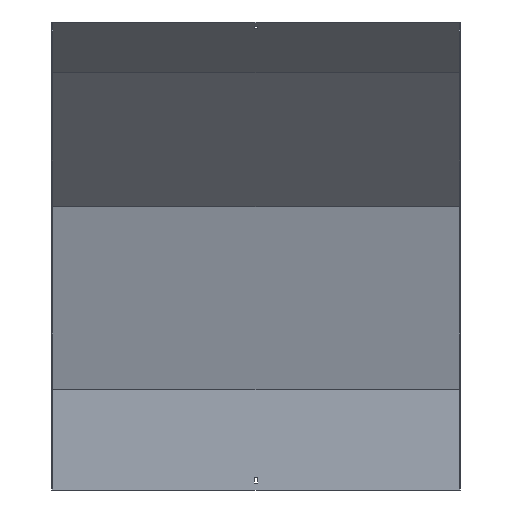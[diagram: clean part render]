
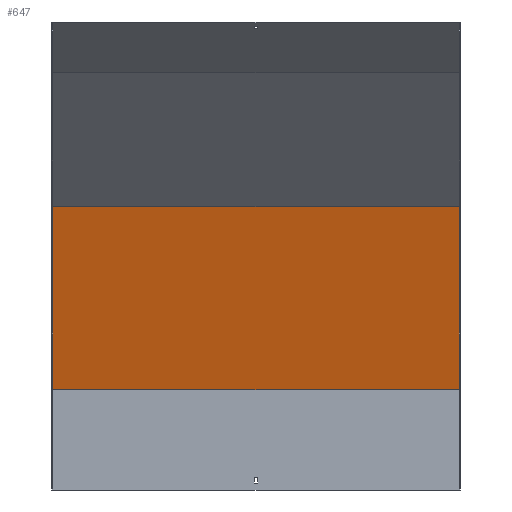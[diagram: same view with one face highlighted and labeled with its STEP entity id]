
A CAD part, front view. The second image highlights one B-rep face of the part: STEP entity #647.
In plain terms, the highlighted planar face has unit normal (0, -0.966, -0.259).
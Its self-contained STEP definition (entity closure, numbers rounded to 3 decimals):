
#37 = VECTOR ( 'NONE', #688, 1000. ) ;
#59 = VERTEX_POINT ( 'NONE', #521 ) ;
#63 = FACE_OUTER_BOUND ( 'NONE', #871, .T. ) ;
#106 = VECTOR ( 'NONE', #809, 1000. ) ;
#204 = LINE ( 'NONE', #500, #106 ) ;
#269 = AXIS2_PLACEMENT_3D ( 'NONE', #660, #592, #297 ) ;
#297 = DIRECTION ( 'NONE',  ( 0., 0.259, -0.966 ) ) ;
#310 = VERTEX_POINT ( 'NONE', #537 ) ;
#315 = VERTEX_POINT ( 'NONE', #383 ) ;
#331 = DIRECTION ( 'NONE',  ( 0., -0.259, 0.966 ) ) ;
#368 = PLANE ( 'NONE',  #269 ) ;
#383 = CARTESIAN_POINT ( 'NONE',  ( -350., 18.5, 172.436 ) ) ;
#408 = LINE ( 'NONE', #705, #882 ) ;
#445 = EDGE_CURVE ( 'NONE', #59, #310, #463, .T. ) ;
#463 = LINE ( 'NONE', #571, #37 ) ;
#500 = CARTESIAN_POINT ( 'NONE',  ( 351.5, 18.5, 172.436 ) ) ;
#521 = CARTESIAN_POINT ( 'NONE',  ( 350., -65.977, 487.707 ) ) ;
#537 = CARTESIAN_POINT ( 'NONE',  ( -350., -65.977, 487.707 ) ) ;
#571 = CARTESIAN_POINT ( 'NONE',  ( 351.5, -65.977, 487.707 ) ) ;
#581 = EDGE_CURVE ( 'NONE', #750, #315, #204, .T. ) ;
#592 = DIRECTION ( 'NONE',  ( 0., -0.966, -0.259 ) ) ;
#632 = ORIENTED_EDGE ( 'NONE', *, *, #445, .T. ) ;
#647 = ADVANCED_FACE ( 'NONE', ( #63 ), #368, .T. ) ;
#660 = CARTESIAN_POINT ( 'NONE',  ( 351.5, 17.87, 174.788 ) ) ;
#688 = DIRECTION ( 'NONE',  ( -1., 0., 0. ) ) ;
#695 = CARTESIAN_POINT ( 'NONE',  ( 350., 18.5, 172.436 ) ) ;
#700 = EDGE_CURVE ( 'NONE', #750, #59, #920, .T. ) ;
#705 = CARTESIAN_POINT ( 'NONE',  ( -350., 60.37, 16.176 ) ) ;
#738 = ORIENTED_EDGE ( 'NONE', *, *, #883, .F. ) ;
#743 = ORIENTED_EDGE ( 'NONE', *, *, #581, .F. ) ;
#750 = VERTEX_POINT ( 'NONE', #695 ) ;
#760 = DIRECTION ( 'NONE',  ( 0., -0.259, 0.966 ) ) ;
#777 = ORIENTED_EDGE ( 'NONE', *, *, #700, .T. ) ;
#809 = DIRECTION ( 'NONE',  ( -1., 0., 0. ) ) ;
#867 = VECTOR ( 'NONE', #760, 1000. ) ;
#871 = EDGE_LOOP ( 'NONE', ( #738, #743, #777, #632 ) ) ;
#882 = VECTOR ( 'NONE', #331, 1000. ) ;
#883 = EDGE_CURVE ( 'NONE', #315, #310, #408, .T. ) ;
#914 = CARTESIAN_POINT ( 'NONE',  ( 350., 60.37, 16.176 ) ) ;
#920 = LINE ( 'NONE', #914, #867 ) ;
